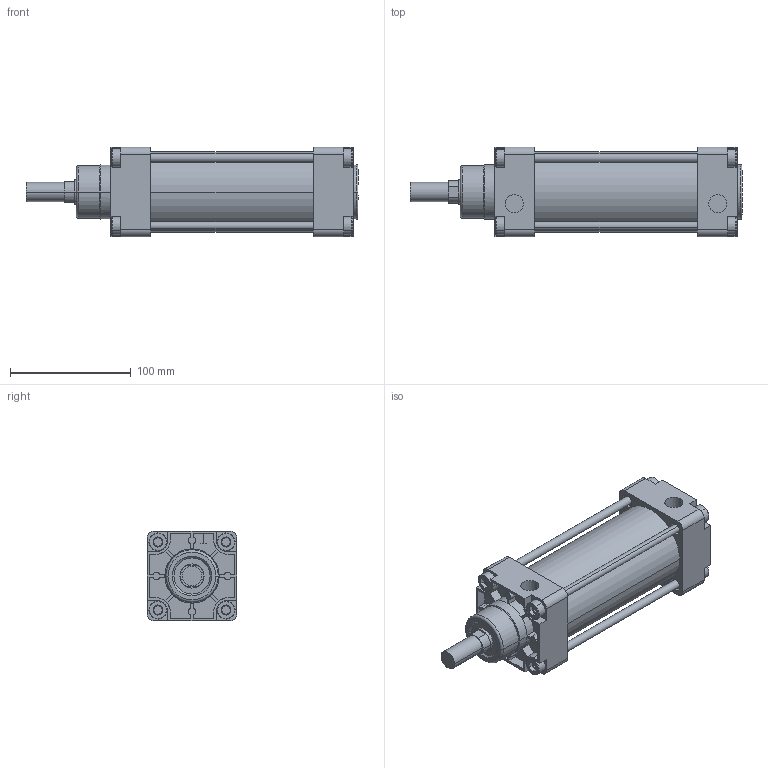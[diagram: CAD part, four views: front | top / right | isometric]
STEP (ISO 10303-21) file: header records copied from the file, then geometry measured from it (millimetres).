
FILE_DESCRIPTION(('CATIA V5 STEP Exchange'),'2;1');
FILE_NAME('D:\stp file for catalog\PNC\63\PNC 63-20-80.stp','2015-06-16T05:58:40+00:00',('none'),('none'),'Version 5-6 Release 2012','CATIA V5 STEP AP203','none');
FILE_SCHEMA(('CONFIG_CONTROL_DESIGN'));
Length unit declared in the file: millimetre
Products named in the file (1): PNC 63-20-80-00
Assembly tree (2 placements, depth 2):
  PNC 63-20-80-00
    #58
    #15151
Bounding box: 275.5 x 74.5 x 74.5 mm (x, y, z)
Volume: 635756.1 mm3; surface area: 165275.7 mm2
Topology: 6 solids, 6 shells, 572 faces, 1446 edges, 930 vertices
Faces by surface type: plane 356, cylinder 154, torus 26, cone 20, extrusion 16
Entity records: 15575 total; most frequent: CARTESIAN_POINT 3056, ORIENTED_EDGE 2892, DIRECTION 1926, EDGE_CURVE 1446, VECTOR 930, VERTEX_POINT 930, LINE 914, AXIS2_PLACEMENT_3D 732
